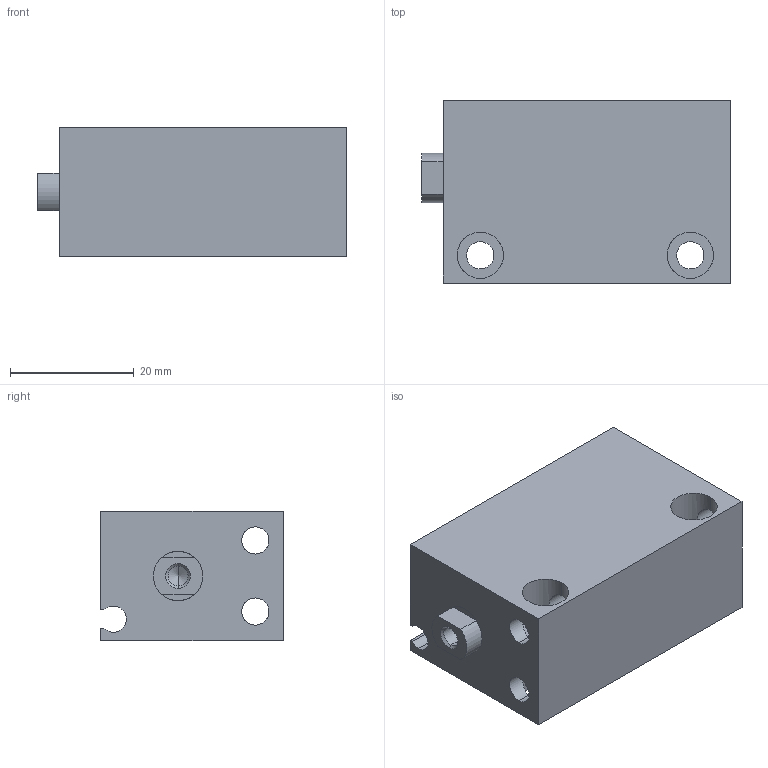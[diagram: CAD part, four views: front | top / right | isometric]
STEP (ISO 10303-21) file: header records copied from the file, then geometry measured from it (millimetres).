
FILE_DESCRIPTION (( 'STEP AP203' ), '1' );
FILE_NAME ('CLJB16-30.STEP', '2020-07-30T19:23:59', ( '' ), ( '' ), 'SwSTEP 2.0', 'SolidWorks 2019', '' );
FILE_SCHEMA (( 'CONFIG_CONTROL_DESIGN' ));
Length unit declared in the file: millimetre
Products named in the file (1): CLJB16-30
Bounding box: 50 x 29.5 x 21 mm (x, y, z)
Volume: 21230.7 mm3; surface area: 11529.4 mm2
Topology: 2 solids, 2 shells, 75 faces, 188 edges, 113 vertices
Faces by surface type: cylinder 41, plane 22, cone 12
Entity records: 3119 total; most frequent: CARTESIAN_POINT 1223, DIRECTION 394, ORIENTED_EDGE 364, EDGE_CURVE 182, AXIS2_PLACEMENT_3D 152, VERTEX_POINT 113, EDGE_LOOP 93, LINE 90
